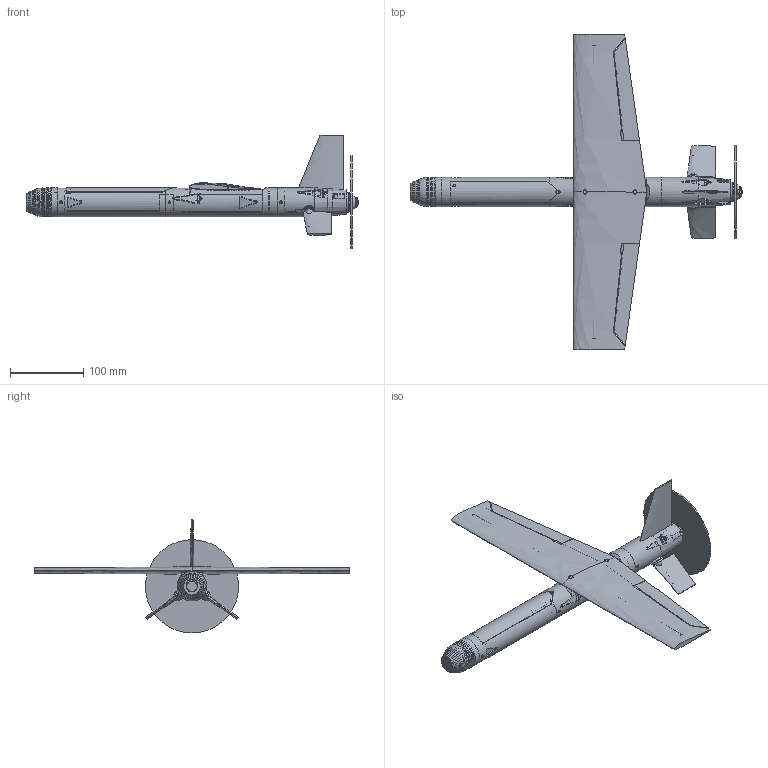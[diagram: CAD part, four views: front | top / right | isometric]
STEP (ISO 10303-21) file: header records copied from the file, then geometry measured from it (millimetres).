
FILE_DESCRIPTION(('Open CASCADE Model'),'2;1');
FILE_NAME('Open CASCADE Shape Model','2026-10-07T11:47:18',('Author'),( 'Open CASCADE'),'Open CASCADE STEP processor 7.9','Open CASCADE 7.9' ,'Unknown');
FILE_SCHEMA(('AUTOMOTIVE_DESIGN { 1 0 10303 214 1 1 1 1 }'));
Length unit declared in the file: millimetre
Products named in the file (146): C4; N0M-nose-micro-camera; N0M-vtx-shelf; F1-fuselage-front; F2-fuselage-main; F3-tail-module; HF-front-hatch; HG-gps-carrier; WR-wing-right; WL-wing-left; AR-aileron-right; AL-aileron-left; SR-stabilator-right; SL-stabilator-left; FN-fin; AHR-aileron-horn-right; AHL-aileron-horn-left; THR-tail-horn-right; THL-tail-horn-left; M1-motor-plate; SP-spinner; ENV-motor; ENV-hatch_screw_HF_front; ENV-hatch_screw_HF_rear; ENV-prop_disc; ENV-prop_hub_nut; ENV-battery; ENV-camera_micro19; ENV-cam_screws; ENV-MD_camera_micro19; ENV-MD_cam_screws; ENV-MD_vtx; ENV-MD_dome; ENV-PD_pi_board; ENV-PD_pi_sensor_lens; ENV-PD_pi_connector; ENV-PD_pi_ribbon; ENV-PD_pi_screws; ENV-PD_dome; ENV-O_o4_camera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
Assembly tree (145 placements, depth 2):
  C4
    N0M-nose-micro-camera
    N0M-vtx-shelf
    F1-fuselage-front
    F2-fuselage-main
    F3-tail-module
    HF-front-hatch
    HG-gps-carrier
    WR-wing-right
    WL-wing-left
    AR-aileron-right
    AL-aileron-left
    SR-stabilator-right
    SL-stabilator-left
    FN-fin
    AHR-aileron-horn-right
    AHL-aileron-horn-left
    THR-tail-horn-right
    THL-tail-horn-left
    M1-motor-plate
    SP-spinner
    ENV-motor
    ENV-hatch_screw_HF_front
    ENV-hatch_screw_HF_rear
    ENV-prop_disc
    ENV-prop_hub_nut
    ENV-battery
    ENV-camera_micro19
    ENV-cam_screws
    ENV-MD_camera_micro19
    ENV-MD_cam_screws
    ENV-MD_vtx
    ENV-MD_dome
    ENV-PD_pi_board
    ENV-PD_pi_sensor_lens
    ENV-PD_pi_connector
    ENV-PD_pi_ribbon
    ENV-PD_pi_screws
    ENV-PD_dome
    ENV-O_o4_camera
    ENV-O_o4_screws
    ENV-O_o4_module
    ENV-OD_o4_camera
    ENV-OD_o4_screws
    ENV-OD_o4_module
    ENV-OD_dome
    ENV-vtx
    ENV-gnss
    ENV-flight_controller
    ENV-ail_servo_arm
    ENV-ail_rod_R
    ENV-ail_link_R
    ENV-ail_rod_L
    ENV-ail_link_L
    ENV-ail_spine_R
    ENV-ail_spine_L
    ENV-receiver
    ENV-ant_elrs
    ENV-ant_vtx
    ENV-MD_ant_vtx
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Bounding box: 452.29 x 430 x 155.1 mm (x, y, z)
Volume: 512749.9 mm3; surface area: 358707.1 mm2
Topology: 164 solids, 166 shells, 2640 faces, 6883 edges, 4561 vertices
Faces by surface type: plane 1752, cylinder 418, bspline 324, cone 128, revolution 8, sphere 6, torus 4
Full cylindrical faces by diameter (mm): 0.98 x6, 1.2 x22, 1.25 x8, 1.5 x2, 1.6 x27, 2 x30, 2.2 x11, 2.38 x4, 2.48 x2, 2.5 x2, 2.58 x2, 2.6 x4, 3 x14, 3.05 x2, 3.2 x4, 3.8 x4, 3.9 x3, 3.94 x3, 4 x4, 5 x6, 5.2 x4, 5.5 x4, 5.6 x3, 6 x3, 6.95 x1, 9 x1, 9.2 x1, 13 x3, 14 x2, 17 x2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
Entity records: 396598 total; most frequent: CARTESIAN_POINT 267933, DIRECTION 19345, ORIENTED_EDGE 13730, PCURVE 13728, DEFINITIONAL_REPRESENTATION 13728, LINE 9669, VECTOR 9669, B_SPLINE_CURVE_WITH_KNOTS 7268
